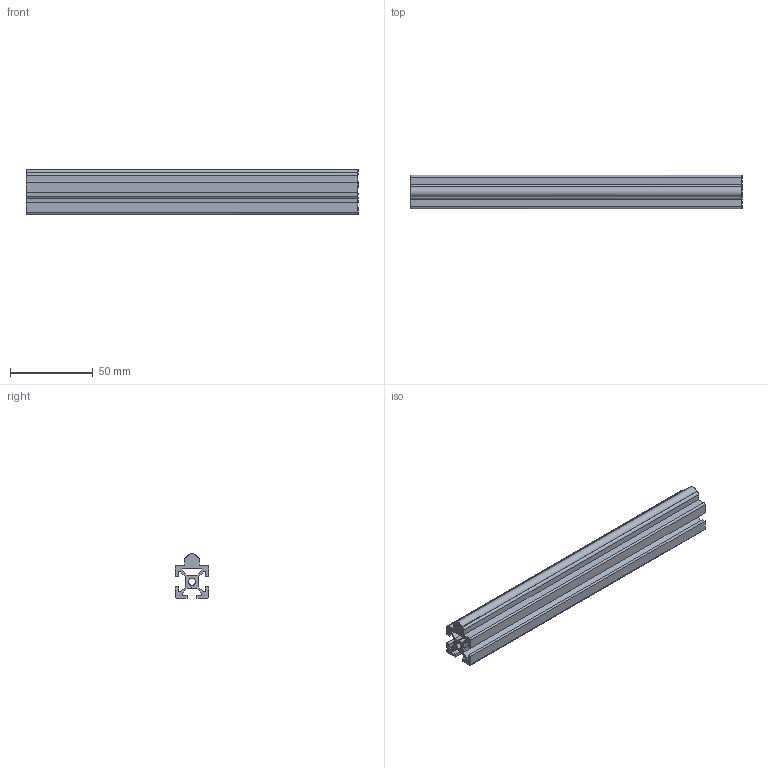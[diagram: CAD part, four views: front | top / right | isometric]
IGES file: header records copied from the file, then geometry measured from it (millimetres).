
Global section: file name: No Iges File Name specified; native system: AutoDesk Inventor R11.0; preprocessor: AutoDesk Inventor Iges Exporter R11.0; author: No Author specified; organization: No Organization specified; date: 20170118.094120; units: millimetre
Bounding box: 200 x 20 x 27 mm (x, y, z)
Surface area: 38868.8 mm2 (no closed solid volume)
Topology: 0 solids, 0 shells, 76 faces, 468 edges, 468 vertices
Faces by surface type: bspline 76
